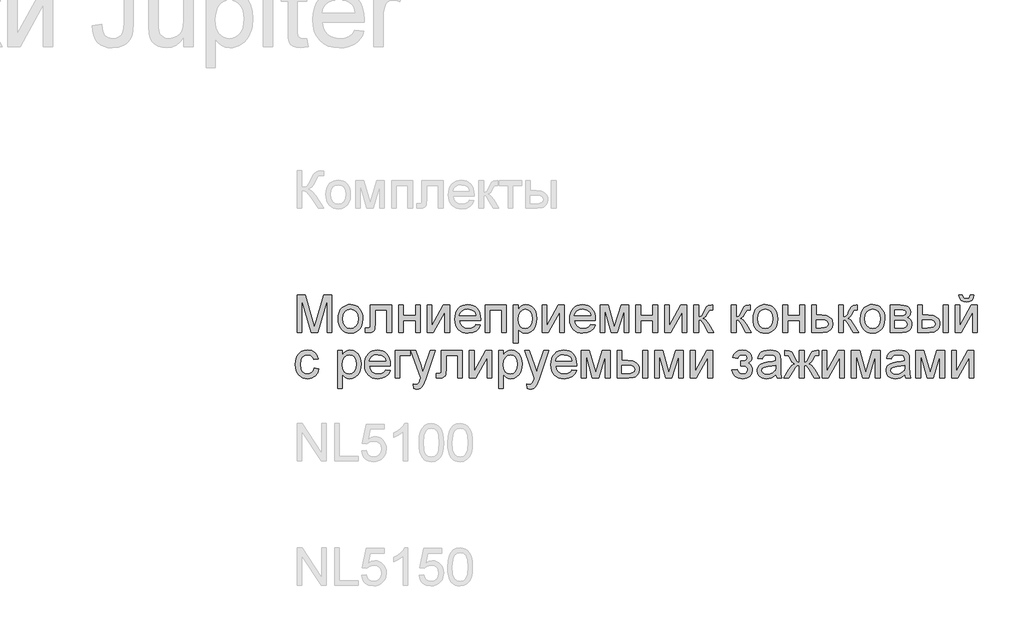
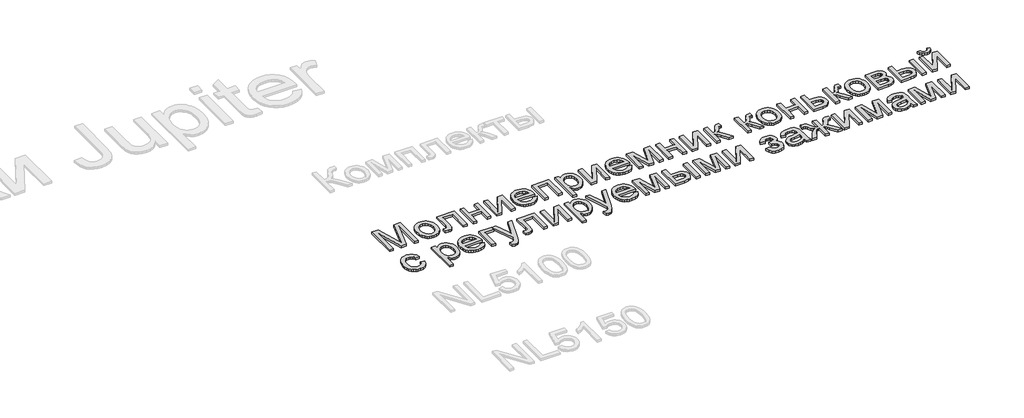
# One storey, part 65 of 124: 1 proxy.
"""IFC4 building model written with IfcOpenShell, lengths in millimetres."""

from ifc_helpers import new_model, si_unit, origin, origin_with_axes, place, context, project, spatial, polyline, outline, extrude, element, save

model = new_model("IFC4")

# Units and contexts
model_context = context("Model", 3, world=origin())
ifc_project = project(units=[si_unit("LENGTHUNIT", "METRE", prefix="MILLI")], contexts=[model_context])

# Site, building, storey
site = spatial("IfcSite", under=ifc_project)
building = spatial("IfcBuilding", under=site)
storey = spatial("IfcBuildingStorey", under=building, Name="Этаж 01", Elevation=0.0)

# Proxy
placement = place(None, origin())
element("IfcBuildingElementProxy", 1, Name="300", ObjectType="300", at=placement, inside=storey, context=model_context, shape_type="SweptSolid", body=[
    extrude(outline(polyline([(10399.8220677, -51074.498362), (10399.8220677, -50773.1294316), (10464.6428752, -50773.1294316), (10526.2998976, -50985.5444956), (10538.7343091, -51029.9110642), (10552.1987901, -50981.8656756), (10612.8257429, -50773.1294316), (10677.6465505, -50773.1294316), (10677.6465505, -51074.498362), (10639.9754341, -51074.498362), (10639.9754341, -50810.8005479), (10564.2653195, -51074.498362), (10513.2032986, -51074.498362), (10437.493184, -50810.8005479), (10437.493184, -51074.498362), (10399.8220677, -51074.498362)])), origin_with_axes(), (0.0, 0.0, 1.0), 20.0),
    extrude(outline(polyline([(10729.4443354, -50963.8394579), (10731.4814819, -50935.1768519), (10737.5929216, -50910.4781745), (10747.7786543, -50889.7434255), (10762.0386801, -50872.972605), (10776.395275, -50862.2534434), (10792.2417919, -50854.5968994), (10809.578231, -50850.002973), (10828.4045921, -50848.4716642), (10849.1876255, -50850.336366), (10867.9794977, -50855.9304716), (10884.7802086, -50865.2539809), (10899.5897581, -50878.306894), (10911.6769809, -50894.6477523), (10920.3107115, -50913.8350977), (10925.4909499, -50935.8689299), (10927.217696, -50960.7492491), (10924.1642754, -50998.8066415), (10915.0040137, -51027.7773486), (10900.0036254, -51049.4731893), (10879.4298248, -51065.7059823), (10854.9932633, -51075.8319342), (10828.4045921, -51079.2072515), (10807.318056, -51077.3494475), (10788.3514398, -51071.7760352), (10771.5047437, -51062.4870149), (10756.7779676, -51049.4823863), (10744.8195035, -51032.9828788), (10736.2777434, -51013.2092216), (10731.1526874, -50990.1614146), (10729.4443354, -50963.8394579)]), holes=[polyline([(10767.1154517, -50963.7658815), (10771.4748533, -50997.8593454), (10784.5530582, -51022.1487541), (10804.234745, -51036.6892899), (10828.4045921, -51041.5361352), (10852.4640746, -51036.6616988), (10872.1089731, -51022.0383895), (10885.187178, -50997.427084), (10889.5465797, -50962.5886591), (10885.1595869, -50929.4884766), (10871.9986085, -50905.5301616), (10852.3261188, -50890.9896258), (10828.4045921, -50886.1427805), (10804.234745, -50890.9712317), (10784.5530582, -50905.4565852), (10771.4748533, -50929.6908117), (10767.1154517, -50963.7658815)])]), origin_with_axes(), (0.0, 0.0, 1.0), 20.0),
    extrude(outline(polyline([(10988.43326, -50853.1805537), (11157.9532834, -50853.1805537), (11157.9532834, -51074.2776328), (11120.282167, -51074.2776328), (11120.282167, -50890.85167), (11026.1043763, -50890.85167), (11026.1043763, -50996.4338026), (11023.5659905, -51045.1413788), (11018.8111157, -51056.1686416), (11009.6232629, -51065.7059823), (10995.6805353, -51072.3002671), (10976.6610361, -51074.498362), (10946.0532541, -51072.5853756), (10946.0532541, -51036.8272457), (10962.9022495, -51036.8272457), (10979.9351859, -51034.5095891), (10986.7410028, -51027.1519492), (10988.43326, -50994.3000871), (10988.43326, -50853.1805537)])), origin_with_axes(), (0.0, 0.0, 1.0), 20.0),
    extrude(outline(polyline([(11214.4599578, -50853.1805537), (11252.1310741, -50853.1805537), (11252.1310741, -50937.9405654), (11351.0177544, -50937.9405654), (11351.0177544, -50853.1805537), (11388.6888707, -50853.1805537), (11388.6888707, -51074.498362), (11351.0177544, -51074.498362), (11351.0177544, -50975.6116817), (11252.1310741, -50975.6116817), (11252.1310741, -51074.498362), (11214.4599578, -51074.498362), (11214.4599578, -50853.1805537)])), origin_with_axes(), (0.0, 0.0, 1.0), 20.0),
    extrude(outline(polyline([(11445.1955452, -50853.1805537), (11482.8666615, -50853.1805537), (11482.8666615, -51021.9648131), (11575.4257715, -50853.1805537), (11624.1333476, -50853.1805537), (11624.1333476, -51074.498362), (11586.4622313, -51074.498362), (11586.4622313, -50906.7441722), (11494.4917325, -51074.498362), (11445.1955452, -51074.498362), (11445.1955452, -50853.1805537)])), origin_with_axes(), (0.0, 0.0, 1.0), 20.0),
    extrude(outline(polyline([(11835.5919185, -51008.5739085), (11872.5272708, -51013.282798), (11859.2191396, -51041.1130709), (11837.9831514, -51061.9167978), (11809.2975529, -51074.8846381), (11773.6405905, -51079.2072515), (11750.2662882, -51077.3425497), (11729.4395688, -51071.7484441), (11711.1604321, -51062.4249348), (11695.4288783, -51049.3720217), (11682.7783362, -51032.9529884), (11673.7422347, -51013.5311184), (11668.3205738, -50991.1064115), (11666.5133535, -50965.6788678), (11668.3389679, -50939.3891007), (11673.8158111, -50916.2171336), (11682.9438831, -50896.1629663), (11695.7231839, -50879.226599), (11711.413351, -50865.771315), (11729.2740219, -50856.1603979), (11749.3051965, -50850.3938476), (11771.5068749, -50848.4716642), (11792.9934827, -50850.3892491), (11812.4245498, -50856.1420038), (11829.8000763, -50865.7299283), (11845.1200621, -50879.1530226), (11857.6257507, -50896.0526017), (11866.5583854, -50916.0699808), (11871.9179662, -50939.2051598), (11873.7044932, -50965.4581386), (11873.483764, -50975.6116817), (11704.1844698, -50975.6116817), (11710.7051782, -51003.8098366), (11725.8527193, -51024.5399871), (11747.7141069, -51037.2870982), (11774.3763545, -51041.5361352), (11794.4259232, -51039.5679666), (11811.3117068, -51033.6634605), (11825.0337052, -51023.4547352), (11835.5919185, -51008.5739085)]), holes=[polyline([(11704.1844698, -50937.9405654), (11836.0333769, -50937.9405654), (11830.9382112, -50918.0381495), (11820.9502151, -50903.8011162), (11798.9876599, -50890.5573644), (11771.3597221, -50886.1427805), (11745.9666674, -50889.6652506), (11724.9698025, -50900.2326609), (11710.3740844, -50916.7045772), (11704.1844698, -50937.9405654)])]), origin_with_axes(), (0.0, 0.0, 1.0), 20.0),
    extrude(outline(polyline([(11911.3756095, -50853.1805537), (12080.8956329, -50853.1805537), (12080.8956329, -51074.498362), (12043.2245165, -51074.498362), (12043.2245165, -50890.85167), (11949.0467258, -50890.85167), (11949.0467258, -51074.498362), (11911.3756095, -51074.498362), (11911.3756095, -50853.1805537)])), origin_with_axes(), (0.0, 0.0, 1.0), 20.0),
    extrude(outline(polyline([(12137.4023073, -51159.2583737), (12137.4023073, -50853.1805537), (12175.0734236, -50853.1805537), (12175.0734236, -50890.115906), (12187.3606823, -50871.8965502), (12201.1194689, -50858.8827246), (12217.1591239, -50851.0744293), (12236.2889876, -50848.4716642), (12261.7648158, -50852.1136959), (12284.0400706, -50863.0397912), (12302.176653, -50880.5877623), (12315.2364638, -50904.0954218), (12323.1275326, -50931.8521184), (12325.7578888, -50962.1472007), (12322.7872417, -50994.3644664), (12313.8753004, -51023.1788237), (12299.3071734, -51047.1279416), (12279.3679693, -51064.7494891), (12256.1454183, -51075.5928109), (12231.7272509, -51079.2072515), (12214.409206, -51076.7884274), (12198.9489651, -51069.5319551), (12185.7144103, -51058.5782687), (12175.0734236, -51045.0678024), (12175.0734236, -51159.2583737), (12137.4023073, -51159.2583737)]), holes=[polyline([(12175.0734236, -50965.6052914), (12179.1477167, -50999.3768586), (12191.370596, -51022.9948827), (12209.4060108, -51036.9008221), (12230.9179105, -51041.5361352), (12252.7792981, -51036.7352752), (12271.2745654, -51022.3326951), (12283.8837207, -50997.8501483), (12288.0867725, -50962.8093883), (12283.9848883, -50929.2217621), (12271.6792356, -50905.2726442), (12253.6714119, -50890.9252464), (12232.4630149, -50886.1427805), (12211.1718444, -50891.2287491), (12192.474242, -50906.4866548), (12179.4236282, -50931.4382511), (12175.0734236, -50965.6052914)])]), origin_with_axes(), (0.0, 0.0, 1.0), 20.0),
    extrude(outline(polyline([(12368.1378947, -50853.1805537), (12405.809011, -50853.1805537), (12405.809011, -51021.9648131), (12498.368121, -50853.1805537), (12547.0756971, -50853.1805537), (12547.0756971, -51074.498362), (12509.4045808, -51074.498362), (12509.4045808, -50906.7441722), (12417.434082, -51074.498362), (12368.1378947, -51074.498362), (12368.1378947, -50853.1805537)])), origin_with_axes(), (0.0, 0.0, 1.0), 20.0),
    extrude(outline(polyline([(12758.534268, -51008.5739085), (12795.4696203, -51013.282798), (12782.1614891, -51041.1130709), (12760.9255009, -51061.9167978), (12732.2399024, -51074.8846381), (12696.58294, -51079.2072515), (12673.2086377, -51077.3425497), (12652.3819183, -51071.7484441), (12634.1027816, -51062.4249348), (12618.3712278, -51049.3720217), (12605.7206857, -51032.9529884), (12596.6845842, -51013.5311184), (12591.2629233, -50991.1064115), (12589.455703, -50965.6788678), (12591.2813174, -50939.3891007), (12596.7581606, -50916.2171336), (12605.8862326, -50896.1629663), (12618.6655334, -50879.226599), (12634.3557005, -50865.771315), (12652.2163714, -50856.1603979), (12672.247546, -50850.3938476), (12694.4492244, -50848.4716642), (12715.9358322, -50850.3892491), (12735.3668993, -50856.1420038), (12752.7424258, -50865.7299283), (12768.0624116, -50879.1530226), (12780.5681002, -50896.0526017), (12789.5007349, -50916.0699808), (12794.8603157, -50939.2051598), (12796.6468427, -50965.4581386), (12796.4261135, -50975.6116817), (12627.1268193, -50975.6116817), (12633.6475277, -51003.8098366), (12648.7950688, -51024.5399871), (12670.6564564, -51037.2870982), (12697.318704, -51041.5361352), (12717.3682727, -51039.5679666), (12734.2540563, -51033.6634605), (12747.9760547, -51023.4547352), (12758.534268, -51008.5739085)]), holes=[polyline([(12627.1268193, -50937.9405654), (12758.9757264, -50937.9405654), (12753.8805607, -50918.0381495), (12743.8925646, -50903.8011162), (12721.9300094, -50890.5573644), (12694.3020716, -50886.1427805), (12668.9090169, -50889.6652506), (12647.912152, -50900.2326609), (12633.3164339, -50916.7045772), (12627.1268193, -50937.9405654)])]), origin_with_axes(), (0.0, 0.0, 1.0), 20.0),
    extrude(outline(polyline([(12834.317959, -50853.1805537), (12899.1387665, -50853.1805537), (12949.0971415, -51030.3525226), (13002.9550656, -50853.1805537), (13065.0535464, -50853.1805537), (13065.0535464, -51074.498362), (13027.38243, -51074.498362), (13027.38243, -50896.2963235), (12973.2302004, -51074.498362), (12923.7868602, -51074.498362), (12871.9890753, -50887.7614613), (12871.9890753, -51074.498362), (12834.317959, -51074.498362), (12834.317959, -50853.1805537)])), origin_with_axes(), (0.0, 0.0, 1.0), 20.0),
    extrude(outline(polyline([(13121.5602208, -50853.1805537), (13159.2313371, -50853.1805537), (13159.2313371, -50937.9405654), (13258.1180174, -50937.9405654), (13258.1180174, -50853.1805537), (13295.7891337, -50853.1805537), (13295.7891337, -51074.498362), (13258.1180174, -51074.498362), (13258.1180174, -50975.6116817), (13159.2313371, -50975.6116817), (13159.2313371, -51074.498362), (13121.5602208, -51074.498362), (13121.5602208, -50853.1805537)])), origin_with_axes(), (0.0, 0.0, 1.0), 20.0),
    extrude(outline(polyline([(13352.2958082, -50853.1805537), (13389.9669245, -50853.1805537), (13389.9669245, -51021.9648131), (13482.5260345, -50853.1805537), (13531.2336106, -50853.1805537), (13531.2336106, -51074.498362), (13493.5624943, -51074.498362), (13493.5624943, -50906.7441722), (13401.5919955, -51074.498362), (13352.2958082, -51074.498362), (13352.2958082, -50853.1805537)])), origin_with_axes(), (0.0, 0.0, 1.0), 20.0),
    extrude(outline(polyline([(13587.7402851, -50853.1805537), (13625.4114014, -50853.1805537), (13625.4114014, -50947.3583445), (13640.7336865, -50945.6660873), (13650.6481063, -50940.5893158), (13659.4220919, -50927.3455639), (13671.3230744, -50901.1523659), (13688.5031636, -50867.1232813), (13703.6599018, -50856.0500333), (13731.2142632, -50853.1805537), (13738.4247503, -50853.1805537), (13738.4247503, -50891.0723992), (13728.2712073, -50890.85167), (13709.8771075, -50894.8247956), (13696.9276613, -50919.620042), (13681.7341349, -50946.4386395), (13660.4337673, -50959.5720267), (13672.3715381, -50964.874126), (13684.1989442, -50974.2321242), (13707.5226627, -51005.1158177), (13747.8425294, -51074.498362), (13705.0210652, -51074.498362), (13665.5105389, -51006.5873457), (13645.6449111, -50977.8557619), (13636.3558908, -50972.6410346), (13625.4114014, -50970.9027922), (13625.4114014, -51074.498362), (13587.7402851, -51074.498362), (13587.7402851, -50853.1805537)])), origin_with_axes(), (0.0, 0.0, 1.0), 20.0),
    extrude(outline(polyline([(13889.1092155, -50853.1805537), (13926.7803319, -50853.1805537), (13926.7803319, -50947.3583445), (13942.102617, -50945.6660873), (13952.0170367, -50940.5893158), (13960.7910223, -50927.3455639), (13972.6920049, -50901.1523659), (13989.872094, -50867.1232813), (14005.0288322, -50856.0500333), (14032.5831937, -50853.1805537), (14039.7936808, -50853.1805537), (14039.7936808, -50891.0723992), (14029.6401377, -50890.85167), (14011.2460379, -50894.8247956), (13998.2965917, -50919.620042), (13983.1030653, -50946.4386395), (13961.8026978, -50959.5720267), (13973.7404685, -50964.874126), (13985.5678747, -50974.2321242), (14008.8915932, -51005.1158177), (14049.2114598, -51074.498362), (14006.3899956, -51074.498362), (13966.8794693, -51006.5873457), (13947.0138416, -50977.8557619), (13937.7248212, -50972.6410346), (13926.7803319, -50970.9027922), (13926.7803319, -51074.498362), (13889.1092155, -51074.498362), (13889.1092155, -50853.1805537)])), origin_with_axes(), (0.0, 0.0, 1.0), 20.0),
    extrude(outline(polyline([(14063.3381285, -50963.8394579), (14065.375275, -50935.1768519), (14071.4867147, -50910.4781745), (14081.6724474, -50889.7434255), (14095.9324732, -50872.972605), (14110.2890681, -50862.2534434), (14126.135585, -50854.5968994), (14143.4720241, -50850.002973), (14162.2983852, -50848.4716642), (14183.0814186, -50850.336366), (14201.8732908, -50855.9304716), (14218.6740017, -50865.2539809), (14233.4835512, -50878.306894), (14245.570774, -50894.6477523), (14254.2045046, -50913.8350977), (14259.384743, -50935.8689299), (14261.1114891, -50960.7492491), (14258.0580685, -50998.8066415), (14248.8978068, -51027.7773486), (14233.8974185, -51049.4731893), (14213.3236179, -51065.7059823), (14188.8870564, -51075.8319342), (14162.2983852, -51079.2072515), (14141.2118491, -51077.3494475), (14122.2452329, -51071.7760352), (14105.3985368, -51062.4870149), (14090.6717607, -51049.4823863), (14078.7132966, -51032.9828788), (14070.1715365, -51013.2092216), (14065.0464805, -50990.1614146), (14063.3381285, -50963.8394579)]), holes=[polyline([(14101.0092448, -50963.7658815), (14105.3686464, -50997.8593454), (14118.4468513, -51022.1487541), (14138.1285381, -51036.6892899), (14162.2983852, -51041.5361352), (14186.3578676, -51036.6616988), (14206.0027662, -51022.0383895), (14219.0809711, -50997.427084), (14223.4403728, -50962.5886591), (14219.05338, -50929.4884766), (14205.8924016, -50905.5301616), (14186.2199119, -50890.9896258), (14162.2983852, -50886.1427805), (14138.1285381, -50890.9712317), (14118.4468513, -50905.4565852), (14105.3686464, -50929.6908117), (14101.0092448, -50963.7658815)])]), origin_with_axes(), (0.0, 0.0, 1.0), 20.0),
    extrude(outline(polyline([(14303.4914949, -50853.1805537), (14341.1626112, -50853.1805537), (14341.1626112, -50937.9405654), (14440.0492915, -50937.9405654), (14440.0492915, -50853.1805537), (14477.7204078, -50853.1805537), (14477.7204078, -51074.498362), (14440.0492915, -51074.498362), (14440.0492915, -50975.6116817), (14341.1626112, -50975.6116817), (14341.1626112, -51074.498362), (14303.4914949, -51074.498362), (14303.4914949, -50853.1805537)])), origin_with_axes(), (0.0, 0.0, 1.0), 20.0),
    extrude(outline(polyline([(14534.2270823, -50853.1805537), (14571.8981986, -50853.1805537), (14571.8981986, -50933.2316759), (14615.308274, -50933.2316759), (14652.9426021, -50937.9497624), (14668.0901433, -50943.8473707), (14680.7912692, -50952.1040222), (14690.8344476, -50962.4346085), (14698.0081465, -50974.554021), (14703.7471057, -51004.1593245), (14698.8634722, -51031.1158777), (14684.2125717, -51053.8601821), (14672.9806746, -51062.8893858), (14658.819517, -51069.338817), (14621.7094207, -51074.498362), (14534.2270823, -51074.498362), (14534.2270823, -50853.1805537)]), holes=[polyline([(14571.8981986, -51036.8272457), (14607.0677173, -51036.8272457), (14634.3553643, -51034.84988), (14652.5011437, -51028.9177828), (14662.682278, -51018.7918309), (14666.0759894, -51004.2329009), (14663.5651947, -50991.9272482), (14656.0328109, -50981.0563352), (14639.8919884, -50973.4411779), (14611.5558777, -50970.9027922), (14571.8981986, -50970.9027922), (14571.8981986, -51036.8272457)])]), origin_with_axes(), (0.0, 0.0, 1.0), 20.0),
    extrude(outline(polyline([(14750.836001, -50853.1805537), (14788.5071174, -50853.1805537), (14788.5071174, -50947.3583445), (14803.8294025, -50945.6660873), (14813.7438222, -50940.5893158), (14822.5178078, -50927.3455639), (14834.4187904, -50901.1523659), (14851.5988795, -50867.1232813), (14866.7556177, -50856.0500333), (14894.3099792, -50853.1805537), (14901.5204663, -50853.1805537), (14901.5204663, -50891.0723992), (14891.3669232, -50890.85167), (14872.9728234, -50894.8247956), (14860.0233772, -50919.620042), (14844.8298508, -50946.4386395), (14823.5294833, -50959.5720267), (14835.467254, -50964.874126), (14847.2946602, -50974.2321242), (14870.6183787, -51005.1158177), (14910.9382453, -51074.498362), (14868.1167811, -51074.498362), (14828.6062548, -51006.5873457), (14808.7406271, -50977.8557619), (14799.4516067, -50972.6410346), (14788.5071174, -50970.9027922), (14788.5071174, -51074.498362), (14750.836001, -51074.498362), (14750.836001, -50853.1805537)])), origin_with_axes(), (0.0, 0.0, 1.0), 20.0),
    extrude(outline(polyline([(14925.064914, -50963.8394579), (14927.1020605, -50935.1768519), (14933.2135002, -50910.4781745), (14943.3992329, -50889.7434255), (14957.6592587, -50872.972605), (14972.0158536, -50862.2534434), (14987.8623705, -50854.5968994), (15005.1988096, -50850.002973), (15024.0251707, -50848.4716642), (15044.8082041, -50850.336366), (15063.6000763, -50855.9304716), (15080.4007872, -50865.2539809), (15095.2103367, -50878.306894), (15107.2975595, -50894.6477523), (15115.9312901, -50913.8350977), (15121.1115285, -50935.8689299), (15122.8382746, -50960.7492491), (15119.784854, -50998.8066415), (15110.6245923, -51027.7773486), (15095.624204, -51049.4731893), (15075.0504034, -51065.7059823), (15050.6138419, -51075.8319342), (15024.0251707, -51079.2072515), (15002.9386346, -51077.3494475), (14983.9720184, -51071.7760352), (14967.1253223, -51062.4870149), (14952.3985462, -51049.4823863), (14940.4400821, -51032.9828788), (14931.898322, -51013.2092216), (14926.773266, -50990.1614146), (14925.064914, -50963.8394579)]), holes=[polyline([(14962.7360303, -50963.7658815), (14967.0954319, -50997.8593454), (14980.1736368, -51022.1487541), (14999.8553236, -51036.6892899), (15024.0251707, -51041.5361352), (15048.0846532, -51036.6616988), (15067.7295517, -51022.0383895), (15080.8077566, -50997.427084), (15085.1671583, -50962.5886591), (15080.7801655, -50929.4884766), (15067.6191871, -50905.5301616), (15047.9466974, -50890.9896258), (15024.0251707, -50886.1427805), (14999.8553236, -50890.9712317), (14980.1736368, -50905.4565852), (14967.0954319, -50929.6908117), (14962.7360303, -50963.7658815)])]), origin_with_axes(), (0.0, 0.0, 1.0), 20.0),
    extrude(outline(polyline([(15165.2182804, -50853.1805537), (15248.2124585, -50853.1805537), (15274.8931002, -50854.4405495), (15293.7194613, -50858.220537), (15307.5702184, -50865.3574477), (15319.3240482, -50876.6882132), (15327.3530727, -50891.4494783), (15330.0294143, -50908.8778878), (15328.4107335, -50922.9217829), (15323.5546911, -50935.0342976), (15315.4428931, -50945.2706141), (15304.0569454, -50953.6859148), (15317.999673, -50961.5126042), (15329.3672267, -50974.1033655), (15336.9272017, -50990.4649173), (15339.4471933, -51009.6039781), (15333.0644407, -51038.3171678), (15317.8893084, -51058.5322834), (15293.8666141, -51070.5068424), (15260.9411756, -51074.498362), (15165.2182804, -51074.498362), (15165.2182804, -50853.1805537)]), holes=[polyline([(15202.8893967, -50937.9405654), (15240.1190546, -50937.9405654), (15270.8372012, -50936.027579), (15285.7732102, -50928.3756335), (15290.712026, -50922.0480632), (15292.3582979, -50914.5432705), (15289.4704243, -50903.3044755), (15280.8068033, -50896.0755943), (15265.1534244, -50892.1576511), (15241.296277, -50890.85167), (15202.8893967, -50890.85167), (15202.8893967, -50937.9405654)]), polyline([(15202.8893967, -51036.8272457), (15249.0953753, -51036.8272457), (15274.2768979, -51035.1257915), (15290.0774296, -51030.0214288), (15298.5571096, -51020.7416055), (15301.776077, -51006.5137693), (15300.1665933, -50997.0867932), (15295.3381421, -50988.3771869), (15287.9253199, -50981.562173), (15278.5627231, -50977.8189737), (15245.4165554, -50975.6116817), (15202.8893967, -50975.6116817), (15202.8893967, -51036.8272457)])]), origin_with_axes(), (0.0, 0.0, 1.0), 20.0),
    extrude(outline(polyline([(15593.7272284, -50853.1805537), (15631.3983447, -50853.1805537), (15631.3983447, -51074.498362), (15593.7272284, -51074.498362), (15593.7272284, -50853.1805537)])), origin_with_axes(), (0.0, 0.0, 1.0), 20.0),
    extrude(outline(polyline([(15386.5360887, -50853.1805537), (15424.207205, -50853.1805537), (15424.207205, -50933.2316759), (15470.7810656, -50933.2316759), (15511.0365529, -50937.9497624), (15527.2532511, -50943.8473707), (15540.8625857, -50952.1040222), (15551.6300318, -50962.4346085), (15559.3210648, -50974.554021), (15563.9356846, -50988.4622596), (15565.4738912, -51004.1593245), (15560.3143462, -51031.1158777), (15544.8357112, -51053.8601821), (15532.9738162, -51062.8893858), (15518.0263108, -51069.338817), (15478.8744695, -51074.498362), (15386.5360887, -51074.498362), (15386.5360887, -50853.1805537)]), holes=[polyline([(15424.207205, -51036.8272457), (15462.9083909, -51036.8272457), (15492.9091676, -51034.84988), (15512.8667659, -51028.9177828), (15524.0687726, -51018.7918309), (15527.8027749, -51004.2329009), (15525.0344628, -50991.9272482), (15516.7295268, -50981.0563352), (15498.9700235, -50973.4411779), (15467.8380096, -50970.9027922), (15424.207205, -50970.9027922), (15424.207205, -51036.8272457)])]), origin_with_axes(), (0.0, 0.0, 1.0), 20.0),
    extrude(outline(polyline([(15687.9050192, -50853.1805537), (15725.5761355, -50853.1805537), (15725.5761355, -51021.9648131), (15818.1352455, -50853.1805537), (15866.8428216, -50853.1805537), (15866.8428216, -51074.498362), (15829.1717053, -51074.498362), (15829.1717053, -50906.7441722), (15737.2012065, -51074.498362), (15687.9050192, -51074.498362), (15687.9050192, -50853.1805537)])), origin_with_axes(), (0.0, 0.0, 1.0), 20.0),
    extrude(outline(polyline([(15810.3361472, -50773.1294316), (15838.5894844, -50773.1294316), (15832.5102344, -50797.2532934), (15820.3057492, -50815.0311908), (15802.5278518, -50825.9848772), (15779.7283652, -50829.636106), (15754.988301, -50826.0124684), (15735.8032549, -50815.1415554), (15722.6882618, -50797.3912491), (15716.1583564, -50773.1294316), (15744.4116936, -50773.1294316), (15748.3848192, -50785.5362518), (15755.0066951, -50794.3562227), (15764.3141096, -50799.6261323), (15776.3438508, -50801.3827688), (15789.9186964, -50799.6813146), (15799.7411457, -50794.5769519), (15806.3630216, -50785.8121633), (15810.3361472, -50773.1294316)])), origin_with_axes(), (0.0, 0.0, 1.0), 20.0),
    extrude(outline(polyline([(10536.3798643, -51360.3716934), (10574.0509806, -51365.0805829), (10563.5479496, -51398.5854356), (10543.8110806, -51423.904914), (10516.6981776, -51439.8250073), (10484.0670446, -51445.1317051), (10462.9391218, -51443.2807988), (10443.9954983, -51437.7280799), (10427.2361741, -51428.4735485), (10412.6611493, -51415.5172045), (10400.8636336, -51399.1027697), (10392.4368366, -51379.473966), (10387.3807585, -51356.6307933), (10385.6953991, -51330.5732518), (10388.5740757, -51297.050005), (10397.2101055, -51267.9965244), (10411.7414443, -51244.5348502), (10432.3060479, -51227.7870223), (10456.9081563, -51217.7438439), (10483.5520098, -51214.3961177), (10515.3829994, -51218.9946426), (10540.8312364, -51232.7902175), (10559.0873805, -51255.0470782), (10569.3420911, -51285.0294608), (10531.6709748, -51289.7383503), (10524.8375667, -51273.3032222), (10514.19658, -51261.5218013), (10500.3366258, -51254.4308758), (10483.8463154, -51252.067234), (10459.5017244, -51256.7209412), (10440.1787226, -51270.682063), (10427.5695672, -51294.7047572), (10423.3665154, -51329.5431822), (10427.4775967, -51364.8506567), (10439.8108406, -51388.9561244), (10458.7843545, -51402.8344727), (10482.8162458, -51407.4605888), (10502.3231886, -51404.5727151), (10518.3168583, -51395.9090941), (10529.9511264, -51381.2489966), (10536.3798643, -51360.3716934)])), origin_with_axes(), (0.0, 0.0, 1.0), 20.0),
    extrude(outline(polyline([(10724.7354458, -51525.1828272), (10724.7354458, -51219.1050072), (10762.4065621, -51219.1050072), (10762.4065621, -51256.0403596), (10774.6938208, -51237.8210037), (10788.4526074, -51224.8071782), (10804.4922624, -51216.9988828), (10823.6221261, -51214.3961177), (10849.0979543, -51218.0381495), (10871.3732091, -51228.9642447), (10889.5097915, -51246.5122159), (10902.5696023, -51270.0198754), (10910.4606711, -51297.7765719), (10913.0910274, -51328.0716542), (10910.1203803, -51360.2889199), (10901.2084389, -51389.1032772), (10886.6403119, -51413.0523951), (10866.7011078, -51430.6739427), (10843.4785568, -51441.5172645), (10819.0603894, -51445.1317051), (10801.7423445, -51442.712881), (10786.2821036, -51435.4564086), (10773.0475489, -51424.5027222), (10762.4065621, -51410.9922559), (10762.4065621, -51525.1828272), (10724.7354458, -51525.1828272)]), holes=[polyline([(10762.4065621, -51331.529745), (10766.4808552, -51365.3013121), (10778.7037345, -51388.9193362), (10796.7391493, -51402.8252756), (10818.251049, -51407.4605888), (10840.1124366, -51402.6597287), (10858.6077039, -51388.2571486), (10871.2168593, -51363.7746018), (10875.4199111, -51328.7338418), (10871.3180268, -51295.1462156), (10859.0123741, -51271.1970978), (10841.0045504, -51256.8496999), (10819.7961534, -51252.067234), (10798.5049829, -51257.1532026), (10779.8073805, -51272.4111083), (10766.7567667, -51297.3627047), (10762.4065621, -51331.529745)])]), origin_with_axes(), (0.0, 0.0, 1.0), 20.0),
    extrude(outline(polyline([(11110.4229296, -51374.498362), (11147.3582819, -51379.2072515), (11134.0501507, -51407.0375245), (11112.8141625, -51427.8412513), (11084.128564, -51440.8090916), (11048.4716016, -51445.1317051), (11025.0972993, -51443.2670032), (11004.2705799, -51437.6728976), (10985.9914432, -51428.3493883), (10970.2598894, -51415.2964753), (10957.6093473, -51398.877442), (10948.5732458, -51379.4555719), (10943.1515849, -51357.030865), (10941.3443646, -51331.6033214), (10943.169979, -51305.3135543), (10948.6468222, -51282.1415871), (10957.7748942, -51262.0874199), (10970.554195, -51245.1510525), (10986.2443621, -51231.6957685), (11004.105033, -51222.0848514), (11024.1362076, -51216.3183011), (11046.337886, -51214.3961177), (11067.8244938, -51216.3137026), (11087.2555609, -51222.0664573), (11104.6310874, -51231.6543818), (11119.9510733, -51245.0774761), (11132.4567618, -51261.9770553), (11141.3893965, -51281.9944343), (11146.7489773, -51305.1296133), (11148.5355043, -51331.3825922), (11148.3147751, -51341.5361352), (10979.0154809, -51341.5361352), (10985.5361893, -51369.7342902), (11000.6837304, -51390.4644406), (11022.545118, -51403.2115517), (11049.2073656, -51407.4605888), (11069.2569343, -51405.4924201), (11086.1427179, -51399.5879141), (11099.8647163, -51389.3791887), (11110.4229296, -51374.498362)]), holes=[polyline([(10979.0154809, -51303.8650189), (11110.864388, -51303.8650189), (11105.7692223, -51283.962603), (11095.7812262, -51269.7255698), (11073.8186711, -51256.4818179), (11046.1907332, -51252.067234), (11020.7976785, -51255.5897041), (10999.8008136, -51266.1571144), (10985.2050955, -51282.6290308), (10979.0154809, -51303.8650189)])]), origin_with_axes(), (0.0, 0.0, 1.0), 20.0),
    extrude(outline(polyline([(11186.2066206, -51219.1050072), (11308.6377486, -51219.1050072), (11308.6377486, -51256.7761235), (11223.8777369, -51256.7761235), (11223.8777369, -51440.4228155), (11186.2066206, -51440.4228155), (11186.2066206, -51219.1050072)])), origin_with_axes(), (0.0, 0.0, 1.0), 20.0),
    extrude(outline(polyline([(11336.8910858, -51525.1828272), (11332.1821963, -51488.9096625), (11351.31206, -51492.2206005), (11369.191125, -51488.0635339), (11380.1540084, -51476.4752511), (11390.4547043, -51448.7369486), (11393.3977603, -51439.6134751), (11313.3466381, -51219.1050072), (11353.0778936, -51219.1050072), (11395.5314758, -51341.9775936), (11410.320332, -51391.1266282), (11425.1091883, -51347.7165528), (11468.7399929, -51219.1050072), (11508.1769428, -51219.1050072), (11431.142453, -51445.7203163), (11411.1296724, -51494.8693508), (11400.8841589, -51510.5595179), (11389.2774819, -51521.4304309), (11375.7946068, -51527.7763953), (11359.9204987, -51529.8917168), (11336.8910858, -51525.1828272)])), origin_with_axes(), (0.0, 0.0, 1.0), 20.0),
    extrude(outline(polyline([(11558.2088941, -51219.1050072), (11727.7289175, -51219.1050072), (11727.7289175, -51440.2020863), (11690.0578012, -51440.2020863), (11690.0578012, -51256.7761235), (11595.8800104, -51256.7761235), (11595.8800104, -51362.3582562), (11593.3416246, -51411.0658323), (11588.5867499, -51422.0930951), (11579.398897, -51431.6304359), (11565.4561694, -51438.2247206), (11546.4366703, -51440.4228155), (11515.8288883, -51438.5098292), (11515.8288883, -51402.7516992), (11532.6778836, -51402.7516992), (11549.71082, -51400.4340427), (11556.5166369, -51393.0764028), (11558.2088941, -51360.2245406), (11558.2088941, -51219.1050072)])), origin_with_axes(), (0.0, 0.0, 1.0), 20.0),
    extrude(outline(polyline([(11784.2355919, -51219.1050072), (11821.9067082, -51219.1050072), (11821.9067082, -51387.8892666), (11914.4658182, -51219.1050072), (11963.1733944, -51219.1050072), (11963.1733944, -51440.4228155), (11925.5022781, -51440.4228155), (11925.5022781, -51272.6686257), (11833.5317793, -51440.4228155), (11784.2355919, -51440.4228155), (11784.2355919, -51219.1050072)])), origin_with_axes(), (0.0, 0.0, 1.0), 20.0),
    extrude(outline(polyline([(12019.6800689, -51525.1828272), (12019.6800689, -51219.1050072), (12057.3511852, -51219.1050072), (12057.3511852, -51256.0403596), (12069.6384438, -51237.8210037), (12083.3972304, -51224.8071782), (12099.4368854, -51216.9988828), (12118.5667492, -51214.3961177), (12144.0425773, -51218.0381495), (12166.3178321, -51228.9642447), (12184.4544145, -51246.5122159), (12197.5142253, -51270.0198754), (12205.4052941, -51297.7765719), (12208.0356504, -51328.0716542), (12205.0650033, -51360.2889199), (12196.1530619, -51389.1032772), (12181.5849349, -51413.0523951), (12161.6457308, -51430.6739427), (12138.4231798, -51441.5172645), (12114.0050124, -51445.1317051), (12096.6869675, -51442.712881), (12081.2267266, -51435.4564086), (12067.9921719, -51424.5027222), (12057.3511852, -51410.9922559), (12057.3511852, -51525.1828272), (12019.6800689, -51525.1828272)]), holes=[polyline([(12057.3511852, -51331.529745), (12061.4254783, -51365.3013121), (12073.6483575, -51388.9193362), (12091.6837724, -51402.8252756), (12113.195672, -51407.4605888), (12135.0570596, -51402.6597287), (12153.5523269, -51388.2571486), (12166.1614823, -51363.7746018), (12170.3645341, -51328.7338418), (12166.2626498, -51295.1462156), (12153.9569971, -51271.1970978), (12135.9491734, -51256.8496999), (12114.7407764, -51252.067234), (12093.4496059, -51257.1532026), (12074.7520035, -51272.4111083), (12061.7013898, -51297.3627047), (12057.3511852, -51331.529745)])]), origin_with_axes(), (0.0, 0.0, 1.0), 20.0),
    extrude(outline(polyline([(12250.4156562, -51525.1828272), (12245.7067667, -51488.9096625), (12264.8366304, -51492.2206005), (12282.7156954, -51488.0635339), (12293.6785789, -51476.4752511), (12303.9792747, -51448.7369486), (12306.9223307, -51439.6134751), (12226.8712085, -51219.1050072), (12266.602464, -51219.1050072), (12309.0560463, -51341.9775936), (12323.8449025, -51391.1266282), (12338.6337587, -51347.7165528), (12382.2645633, -51219.1050072), (12421.7015132, -51219.1050072), (12344.6670234, -51445.7203163), (12324.6542429, -51494.8693508), (12314.4087293, -51510.5595179), (12302.8020523, -51521.4304309), (12289.3191772, -51527.7763953), (12273.4450691, -51529.8917168), (12250.4156562, -51525.1828272)])), origin_with_axes(), (0.0, 0.0, 1.0), 20.0),
    extrude(outline(polyline([(12607.8498027, -51374.498362), (12644.7851551, -51379.2072515), (12631.4770239, -51407.0375245), (12610.2410357, -51427.8412513), (12581.5554371, -51440.8090916), (12545.8984748, -51445.1317051), (12522.5241725, -51443.2670032), (12501.697453, -51437.6728976), (12483.4183164, -51428.3493883), (12467.6867626, -51415.2964753), (12455.0362205, -51398.877442), (12446.000119, -51379.4555719), (12440.5784581, -51357.030865), (12438.7712378, -51331.6033214), (12440.5968522, -51305.3135543), (12446.0736954, -51282.1415871), (12455.2017674, -51262.0874199), (12467.9810682, -51245.1510525), (12483.6712353, -51231.6957685), (12501.5319061, -51222.0848514), (12521.5630808, -51216.3183011), (12543.7647592, -51214.3961177), (12565.251367, -51216.3137026), (12584.6824341, -51222.0664573), (12602.0579606, -51231.6543818), (12617.3779464, -51245.0774761), (12629.883635, -51261.9770553), (12638.8162697, -51281.9944343), (12644.1758505, -51305.1296133), (12645.9623774, -51331.3825922), (12645.7416482, -51341.5361352), (12476.4423541, -51341.5361352), (12482.9630624, -51369.7342902), (12498.1106036, -51390.4644406), (12519.9719911, -51403.2115517), (12546.6342387, -51407.4605888), (12566.6838075, -51405.4924201), (12583.5695911, -51399.5879141), (12597.2915895, -51389.3791887), (12607.8498027, -51374.498362)]), holes=[polyline([(12476.4423541, -51303.8650189), (12608.2912611, -51303.8650189), (12603.1960955, -51283.962603), (12593.2080993, -51269.7255698), (12571.2455442, -51256.4818179), (12543.6176064, -51252.067234), (12518.2245517, -51255.5897041), (12497.2276868, -51266.1571144), (12482.6319686, -51282.6290308), (12476.4423541, -51303.8650189)])]), origin_with_axes(), (0.0, 0.0, 1.0), 20.0),
    extrude(outline(polyline([(12683.6334938, -51219.1050072), (12748.4543013, -51219.1050072), (12798.4126762, -51396.2769761), (12852.2706003, -51219.1050072), (12914.3690811, -51219.1050072), (12914.3690811, -51440.4228155), (12876.6979648, -51440.4228155), (12876.6979648, -51262.2207771), (12822.5457351, -51440.4228155), (12773.102395, -51440.4228155), (12721.3046101, -51253.6859148), (12721.3046101, -51440.4228155), (12683.6334938, -51440.4228155), (12683.6334938, -51219.1050072)])), origin_with_axes(), (0.0, 0.0, 1.0), 20.0),
    extrude(outline(polyline([(13178.0668953, -51219.1050072), (13215.7380116, -51219.1050072), (13215.7380116, -51440.4228155), (13178.0668953, -51440.4228155), (13178.0668953, -51219.1050072)])), origin_with_axes(), (0.0, 0.0, 1.0), 20.0),
    extrude(outline(polyline([(12970.8757556, -51219.1050072), (13008.5468719, -51219.1050072), (13008.5468719, -51299.1561294), (13055.1207325, -51299.1561294), (13095.3762198, -51303.874216), (13111.592918, -51309.7718242), (13125.2022526, -51318.0284757), (13135.9696987, -51328.359062), (13143.6607317, -51340.4784745), (13148.2753514, -51354.3867132), (13149.813558, -51370.0837781), (13144.6540131, -51397.0403313), (13129.1753781, -51419.7846356), (13117.313483, -51428.8138393), (13102.3659777, -51435.2632706), (13063.2141364, -51440.4228155), (12970.8757556, -51440.4228155), (12970.8757556, -51219.1050072)]), holes=[polyline([(13008.5468719, -51402.7516992), (13047.2480578, -51402.7516992), (13077.2488345, -51400.7743335), (13097.2064327, -51394.8422363), (13108.4084395, -51384.7162844), (13112.1424417, -51370.1573545), (13109.3741297, -51357.8517017), (13101.0691937, -51346.9807888), (13083.3096904, -51339.3656315), (13052.1776765, -51336.8272457), (13008.5468719, -51336.8272457), (13008.5468719, -51402.7516992)])]), origin_with_axes(), (0.0, 0.0, 1.0), 20.0),
    extrude(outline(polyline([(13272.244686, -51219.1050072), (13337.0654936, -51219.1050072), (13387.0238685, -51396.2769761), (13440.8817926, -51219.1050072), (13502.9802734, -51219.1050072), (13502.9802734, -51440.4228155), (13465.3091571, -51440.4228155), (13465.3091571, -51262.2207771), (13411.1569274, -51440.4228155), (13361.7135873, -51440.4228155), (13309.9158023, -51253.6859148), (13309.9158023, -51440.4228155), (13272.244686, -51440.4228155), (13272.244686, -51219.1050072)])), origin_with_axes(), (0.0, 0.0, 1.0), 20.0),
    extrude(outline(polyline([(13559.4869479, -51219.1050072), (13597.1580642, -51219.1050072), (13597.1580642, -51387.8892666), (13689.7171742, -51219.1050072), (13738.4247503, -51219.1050072), (13738.4247503, -51440.4228155), (13700.753634, -51440.4228155), (13700.753634, -51272.6686257), (13608.7831352, -51440.4228155), (13559.4869479, -51440.4228155), (13559.4869479, -51219.1050072)])), origin_with_axes(), (0.0, 0.0, 1.0), 20.0),
    extrude(outline(polyline([(13964.4514482, -51341.5361352), (13964.4514482, -51303.8650189), (13994.1763134, -51302.3934909), (14009.1858988, -51294.5576045), (14014.4833995, -51287.2091616), (14016.2492331, -51278.1868557), (14013.8855913, -51267.4722926), (14006.7946658, -51259.1673565), (13995.9697381, -51253.8422646), (13982.4040895, -51252.067234), (13968.6912882, -51253.8330676), (13957.2041729, -51259.1305683), (13947.9427436, -51267.9597362), (13940.9070005, -51280.3205712), (13898.5269946, -51275.6116817), (13909.7657896, -51248.8298724), (13926.8539083, -51229.7000087), (13949.7913507, -51218.2220905), (13978.5781168, -51214.3961177), (14010.0688156, -51219.059022), (14033.9075688, -51233.0477349), (14048.9171543, -51253.5111708), (14053.9203494, -51277.5982445), (14052.1407202, -51289.9590795), (14046.8018328, -51300.9955394), (14037.903687, -51310.707624), (14025.446283, -51319.0953335), (14039.9868188, -51329.5615763), (14050.351894, -51342.5662048), (14056.5599027, -51358.1460073), (14058.6292389, -51376.337772), (14053.3777234, -51404.0668774), (14037.623177, -51426.0386295), (14012.4324574, -51440.3584362), (13978.8724224, -51445.1317051), (13946.0481514, -51440.7171211), (13920.9310081, -51427.4733693), (13903.5209927, -51405.4004496), (13893.8181051, -51374.498362), (13936.1981109, -51369.7894725), (13942.5440753, -51385.7187629), (13953.1942591, -51397.6013513), (13966.9162575, -51404.9957794), (13982.4776659, -51407.4605888), (13997.6344041, -51405.096947), (14009.9952392, -51398.0060215), (14018.2174018, -51387.2362761), (14020.9581226, -51373.8361744), (14019.2566684, -51363.2227788), (14014.1523057, -51354.0441231), (13999.6577551, -51343.4491216), (13971.8090881, -51341.315406), (13964.4514482, -51341.5361352)])), origin_with_axes(), (0.0, 0.0, 1.0), 20.0),
    extrude(outline(polyline([(14246.9848205, -51412.1694783), (14228.9861938, -51427.602128), (14210.4541383, -51437.7004888), (14190.9655896, -51443.273901), (14170.0974835, -51445.1317051), (14138.6159817, -51440.6619388), (14115.3934308, -51427.2526401), (14101.0736241, -51406.8903717), (14096.3003552, -51381.5616963), (14098.102977, -51365.9451056), (14103.5108423, -51351.7632547), (14111.8525666, -51339.6231489), (14122.4567651, -51330.1317934), (14148.8339041, -51317.7709583), (14181.4282489, -51312.1055756), (14219.9454938, -51306.1458873), (14246.7640913, -51299.1561294), (14246.9848205, -51290.7684199), (14244.3912524, -51273.9562127), (14236.6105482, -51262.9565411), (14219.2097298, -51254.7895608), (14194.9663063, -51252.067234), (14172.5255046, -51253.8790528), (14156.8537316, -51259.3145093), (14146.1667597, -51269.3668848), (14138.6803611, -51285.0294608), (14101.0092448, -51280.3205712), (14107.5483472, -51259.7191795), (14117.3064172, -51243.5323717), (14131.1939625, -51231.1531426), (14150.1214911, -51221.9744868), (14173.2704657, -51216.29071), (14199.8223487, -51214.3961177), (14225.2889798, -51216.0699808), (14245.4765043, -51221.09157), (14260.6976218, -51228.642348), (14271.2650321, -51237.9037772), (14278.2731841, -51249.3541043), (14282.8165268, -51263.4715759), (14284.6559368, -51296.4338026), (14284.6559368, -51343.3019688), (14286.5689231, -51408.7481758), (14294.0737158, -51440.4228155), (14256.4025995, -51440.4228155), (14246.9848205, -51412.1694783)]), holes=[polyline([(14246.9848205, -51336.8272457), (14186.2107149, -51348.3787403), (14153.8003111, -51354.4855815), (14139.1218195, -51364.4183953), (14133.9714715, -51378.9129459), (14136.7765717, -51390.1149527), (14145.1918724, -51399.2936085), (14159.0334325, -51405.4188437), (14178.117311, -51407.4605888), (14198.3508207, -51405.2073115), (14216.2298857, -51398.4474799), (14230.7244363, -51388.4870749), (14240.8044029, -51376.6320776), (14245.2741692, -51364.4183953), (14246.7640913, -51347.4958236), (14246.9848205, -51336.8272457)])]), origin_with_axes(), (0.0, 0.0, 1.0), 20.0),
    extrude(outline(polyline([(14473.0115183, -51219.1050072), (14473.0115183, -51313.282798), (14486.3012554, -51311.3422205), (14494.9740734, -51305.5204879), (14515.7594061, -51265.2374094), (14528.7272465, -51240.1294633), (14540.5546526, -51226.6097999), (14554.9204445, -51220.9812054), (14575.7977477, -51219.1050072), (14590.7337567, -51219.1050072), (14590.7337567, -51256.9968527), (14580.3594845, -51256.7761235), (14560.9353151, -51260.6756727), (14547.4708341, -51285.1030372), (14531.8358493, -51311.8848464), (14509.5054122, -51325.4964802), (14521.8984369, -51330.7985795), (14534.1351118, -51340.1565778), (14558.139412, -51371.0402712), (14600.1515358, -51440.4228155), (14556.9621896, -51440.4228155), (14515.6122533, -51371.9967644), (14504.309079, -51354.034926), (14494.532615, -51343.5594862), (14484.6457864, -51338.5103058), (14473.0115183, -51336.8272457), (14473.0115183, -51440.4228155), (14435.340402, -51440.4228155), (14435.340402, -51336.8272457), (14423.7981044, -51338.4735176), (14413.8928817, -51343.4123334), (14404.0428412, -51353.8141968), (14392.6660905, -51371.8496116), (14351.3161543, -51440.4228155), (14308.2003845, -51440.4228155), (14350.0653555, -51371.0402712), (14374.2535967, -51340.1565778), (14386.5546509, -51330.7985795), (14398.9936609, -51325.4964802), (14384.6094749, -51318.2859931), (14375.3020604, -51310.4868948), (14354.9949742, -51271.8592853), (14345.0621604, -51259.1305683), (14328.8017762, -51256.5553943), (14317.6181635, -51256.7761235), (14317.6181635, -51219.1050072), (14323.2835463, -51219.1050072), (14356.3193494, -51221.459452), (14373.4626504, -51231.4658423), (14392.6660905, -51265.2374094), (14413.2306941, -51305.2629705), (14421.9035121, -51311.2778411), (14435.340402, -51313.282798), (14435.340402, -51219.1050072), (14473.0115183, -51219.1050072)])), origin_with_axes(), (0.0, 0.0, 1.0), 20.0),
    extrude(outline(polyline([(14618.987094, -51219.1050072), (14656.6582103, -51219.1050072), (14656.6582103, -51387.8892666), (14749.2173203, -51219.1050072), (14797.9248964, -51219.1050072), (14797.9248964, -51440.4228155), (14760.2537801, -51440.4228155), (14760.2537801, -51272.6686257), (14668.2832813, -51440.4228155), (14618.987094, -51440.4228155), (14618.987094, -51219.1050072)])), origin_with_axes(), (0.0, 0.0, 1.0), 20.0),
    extrude(outline(polyline([(14854.4315709, -51219.1050072), (14919.2523784, -51219.1050072), (14969.2107534, -51396.2769761), (15023.0686775, -51219.1050072), (15085.1671583, -51219.1050072), (15085.1671583, -51440.4228155), (15047.496042, -51440.4228155), (15047.496042, -51262.2207771), (14993.3438123, -51440.4228155), (14943.9004721, -51440.4228155), (14892.1026872, -51253.6859148), (14892.1026872, -51440.4228155), (14854.4315709, -51440.4228155), (14854.4315709, -51219.1050072)])), origin_with_axes(), (0.0, 0.0, 1.0), 20.0),
    extrude(outline(polyline([(15282.9405189, -51412.1694783), (15264.9418923, -51427.602128), (15246.4098368, -51437.7004888), (15226.9212881, -51443.273901), (15206.0531819, -51445.1317051), (15174.5716801, -51440.6619388), (15151.3491292, -51427.2526401), (15137.0293225, -51406.8903717), (15132.2560536, -51381.5616963), (15134.0586754, -51365.9451056), (15139.4665408, -51351.7632547), (15147.808265, -51339.6231489), (15158.4124635, -51330.1317934), (15184.7896026, -51317.7709583), (15217.3839473, -51312.1055756), (15255.9011922, -51306.1458873), (15282.7197897, -51299.1561294), (15282.9405189, -51290.7684199), (15280.3469508, -51273.9562127), (15272.5662466, -51262.9565411), (15255.1654282, -51254.7895608), (15230.9220048, -51252.067234), (15208.481203, -51253.8790528), (15192.8094301, -51259.3145093), (15182.1224581, -51269.3668848), (15174.6360595, -51285.0294608), (15136.9649432, -51280.3205712), (15143.5040457, -51259.7191795), (15153.2621156, -51243.5323717), (15167.1496609, -51231.1531426), (15186.0771895, -51221.9744868), (15209.2261641, -51216.29071), (15235.7780471, -51214.3961177), (15261.2446782, -51216.0699808), (15281.4322027, -51221.09157), (15296.6533202, -51228.642348), (15307.2207306, -51237.9037772), (15314.2288826, -51249.3541043), (15318.7722252, -51263.4715759), (15320.6116352, -51296.4338026), (15320.6116352, -51343.3019688), (15322.5246216, -51408.7481758), (15330.0294143, -51440.4228155), (15292.3582979, -51440.4228155), (15282.9405189, -51412.1694783)]), holes=[polyline([(15282.9405189, -51336.8272457), (15222.1664133, -51348.3787403), (15189.7560095, -51354.4855815), (15175.0775179, -51364.4183953), (15169.92717, -51378.9129459), (15172.7322702, -51390.1149527), (15181.1475708, -51399.2936085), (15194.9891309, -51405.4188437), (15214.0730094, -51407.4605888), (15234.3065191, -51405.2073115), (15252.1855841, -51398.4474799), (15266.6801347, -51388.4870749), (15276.7601014, -51376.6320776), (15281.2298676, -51364.4183953), (15282.7197897, -51347.4958236), (15282.9405189, -51336.8272457)])]), origin_with_axes(), (0.0, 0.0, 1.0), 20.0),
    extrude(outline(polyline([(15372.4094201, -51219.1050072), (15437.2302276, -51219.1050072), (15487.1886026, -51396.2769761), (15541.0465267, -51219.1050072), (15603.1450075, -51219.1050072), (15603.1450075, -51440.4228155), (15565.4738912, -51440.4228155), (15565.4738912, -51262.2207771), (15511.3216615, -51440.4228155), (15461.8783213, -51440.4228155), (15410.0805364, -51253.6859148), (15410.0805364, -51440.4228155), (15372.4094201, -51440.4228155), (15372.4094201, -51219.1050072)])), origin_with_axes(), (0.0, 0.0, 1.0), 20.0),
    extrude(outline(polyline([(15659.6516819, -51219.1050072), (15697.3227982, -51219.1050072), (15697.3227982, -51387.8892666), (15789.8819082, -51219.1050072), (15838.5894844, -51219.1050072), (15838.5894844, -51440.4228155), (15800.9183681, -51440.4228155), (15800.9183681, -51272.6686257), (15708.9478693, -51440.4228155), (15659.6516819, -51440.4228155), (15659.6516819, -51219.1050072)])), origin_with_axes(), (0.0, 0.0, 1.0), 20.0),
])

save(model, "model.ifc")
